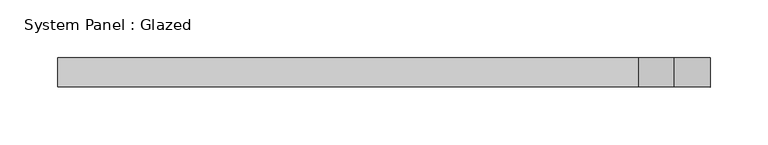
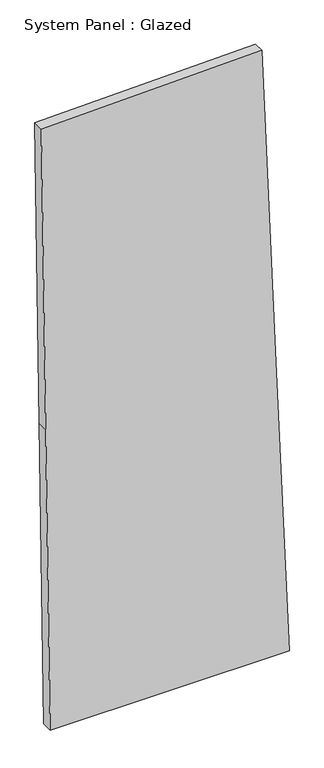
"""IFC4 building model written with IfcOpenShell, lengths in millimetres: plate geometry, System Panel : Glazed."""

from ifc_helpers import new_model, si_unit, frame, origin, place, context, project, spatial, polyline, outline, extrude, source, transform, mapped, element, save


def system_panel_glazed_14262537(model_context):
    return source(origin(), model_context, "Body", "SweptSolid", [
        extrude(outline(polyline([(0.0, -263.6177126), (0.0, 283.4453425), (735.0855827, 252.0683775), (1472.0089303, 220.612968), (1457.7827093, -283.4453425), (728.8593491, -273.5310922), (0.0, -263.6177126)])), frame((0.0, -44.45, 0.0), z_axis=(0.0, 1.0, 0.0), x_axis=(0.0, 0.0, 1.0)), (0.0, 0.0, 1.0), 25.4),
    ])


if __name__ == "__main__":
    model = new_model("IFC4")
    model_context = context("Model", 3, world=origin())
    ifc_project = project(units=[si_unit("LENGTHUNIT", "METRE", prefix="MILLI")], contexts=[model_context])
    site = spatial("IfcSite", under=ifc_project)
    building = spatial("IfcBuilding", under=site)
    placement = place(None, origin())
    system_panel_glazed_shape = system_panel_glazed_14262537(model_context)
    element("IfcPlate", 1, ObjectType="System Panel : Glazed", at=placement, inside=building, context=model_context, shape_type="MappedRepresentation", body=[
        mapped(system_panel_glazed_shape, transform((0.0, 0.0, 0.0), x_axis=(1.0, 0.0, 0.0), y_axis=(0.0, 1.0, 0.0), z_axis=(0.0, 0.0, 1.0))),
    ])
    save(model, "model.ifc")
